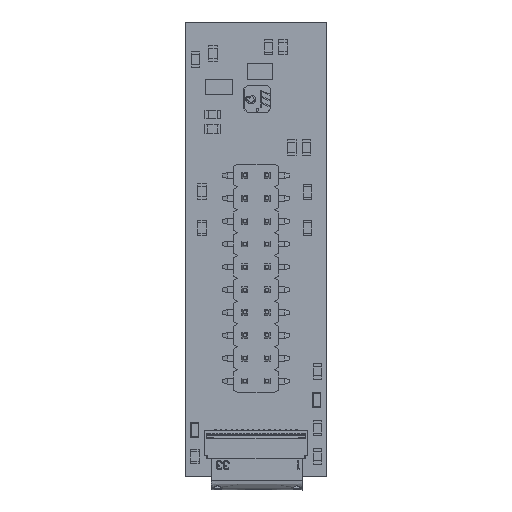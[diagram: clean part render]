
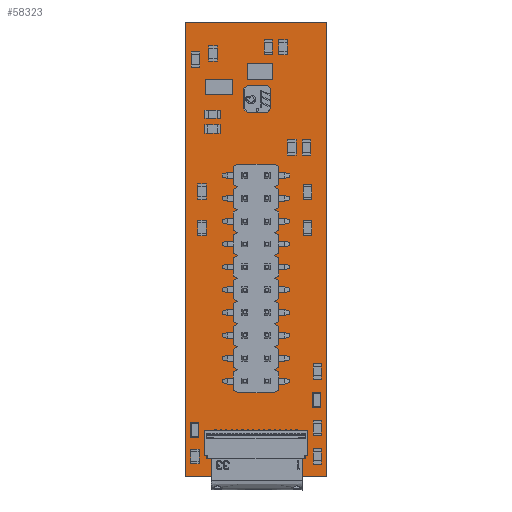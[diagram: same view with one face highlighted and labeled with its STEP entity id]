
A CAD part, top view. The second image highlights one B-rep face of the part: STEP entity #58323.
In plain terms, the highlighted planar face has unit normal (0, 0, 1).
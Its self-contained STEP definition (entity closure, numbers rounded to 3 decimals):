
#86 = ORIENTED_EDGE ( 'NONE', *, *, #83643, .F. ) ;
#10544 = CARTESIAN_POINT ( 'NONE',  ( 15.75, 0., 0. ) ) ;
#15252 = ORIENTED_EDGE ( 'NONE', *, *, #64846, .F. ) ;
#15755 = DIRECTION ( 'NONE',  ( 0., 1., 0. ) ) ;
#17649 = VECTOR ( 'NONE', #86715, 1000. ) ;
#18665 = LINE ( 'NONE', #65833, #43352 ) ;
#20849 = FACE_OUTER_BOUND ( 'NONE', #41948, .T. ) ;
#23022 = CARTESIAN_POINT ( 'NONE',  ( 15.75, 50.5, 0. ) ) ;
#27923 = VERTEX_POINT ( 'NONE', #33720 ) ;
#29679 = DIRECTION ( 'NONE',  ( -1., 0., 0. ) ) ;
#29924 = VERTEX_POINT ( 'NONE', #93972 ) ;
#33720 = CARTESIAN_POINT ( 'NONE',  ( 15.75, 50.5, 0. ) ) ;
#35625 = EDGE_CURVE ( 'NONE', #45814, #27923, #89930, .T. ) ;
#41948 = EDGE_LOOP ( 'NONE', ( #74894, #15252, #67575, #86 ) ) ;
#43352 = VECTOR ( 'NONE', #15755, 1000. ) ;
#44170 = DIRECTION ( 'NONE',  ( 1., 0., 0. ) ) ;
#45616 = EDGE_CURVE ( 'NONE', #58277, #29924, #52991, .T. ) ;
#45814 = VERTEX_POINT ( 'NONE', #95895 ) ;
#50905 = PLANE ( 'NONE',  #60083 ) ;
#51929 = DIRECTION ( 'NONE',  ( 0., 0., 1. ) ) ;
#52991 = LINE ( 'NONE', #70044, #61411 ) ;
#58277 = VERTEX_POINT ( 'NONE', #10544 ) ;
#58323 = ADVANCED_FACE ( 'NONE', ( #20849 ), #50905, .T. ) ;
#60083 = AXIS2_PLACEMENT_3D ( 'NONE', #76273, #51929, #44170 ) ;
#61411 = VECTOR ( 'NONE', #29679, 1000. ) ;
#64846 = EDGE_CURVE ( 'NONE', #27923, #58277, #102262, .T. ) ;
#65833 = CARTESIAN_POINT ( 'NONE',  ( 0., 0., 0. ) ) ;
#67575 = ORIENTED_EDGE ( 'NONE', *, *, #35625, .F. ) ;
#70044 = CARTESIAN_POINT ( 'NONE',  ( 15.75, 0., 0. ) ) ;
#74894 = ORIENTED_EDGE ( 'NONE', *, *, #45616, .F. ) ;
#76273 = CARTESIAN_POINT ( 'NONE',  ( 0., 0., 0. ) ) ;
#83643 = EDGE_CURVE ( 'NONE', #29924, #45814, #18665, .T. ) ;
#86715 = DIRECTION ( 'NONE',  ( 0., -1., 0. ) ) ;
#89429 = CARTESIAN_POINT ( 'NONE',  ( 0., 50.5, 0. ) ) ;
#89930 = LINE ( 'NONE', #89429, #95681 ) ;
#93972 = CARTESIAN_POINT ( 'NONE',  ( 0., 0., 0. ) ) ;
#95681 = VECTOR ( 'NONE', #98701, 1000. ) ;
#95895 = CARTESIAN_POINT ( 'NONE',  ( 0., 50.5, 0. ) ) ;
#98701 = DIRECTION ( 'NONE',  ( 1., 0., 0. ) ) ;
#102262 = LINE ( 'NONE', #23022, #17649 ) ;
